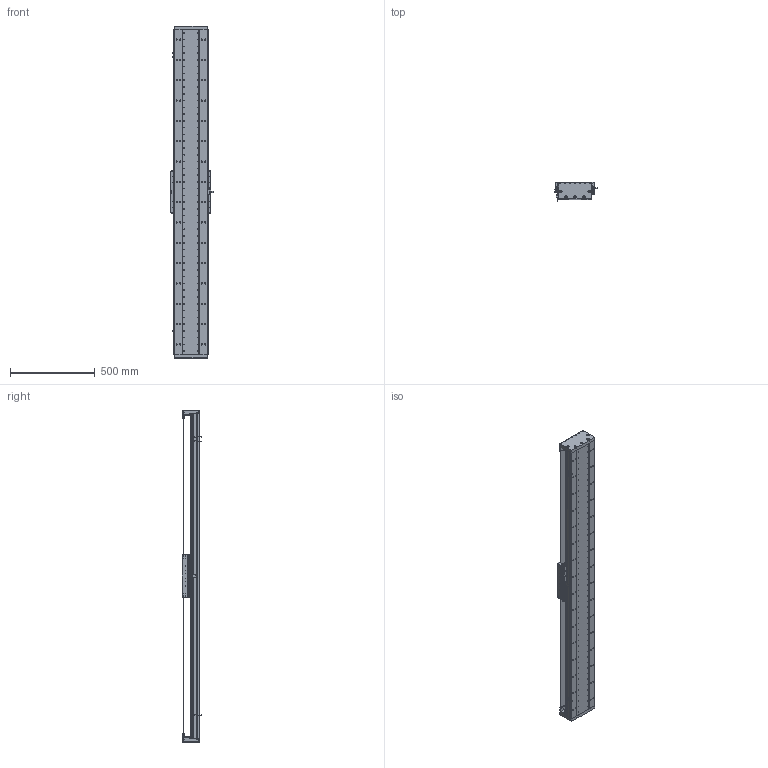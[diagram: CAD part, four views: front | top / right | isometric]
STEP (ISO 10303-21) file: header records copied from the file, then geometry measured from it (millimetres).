
FILE_DESCRIPTION (( 'STEP AP203' ), '1' );
FILE_NAME ('DA-C195-C3-T1620-C010-0.2 眻盄萇儂.STEP', '2025-08-15T01:37:17', ( '' ), ( '' ), 'SwSTEP 2.0', 'SolidWorks 2019', '' );
FILE_SCHEMA (( 'CONFIG_CONTROL_DESIGN' ));
Length unit declared in the file: millimetre
Products named in the file (15): DA165-GYP-00 光电感应片(默认); DA-C195-GD-DB-H-00 傷啣; DA95-HXJ-00 遣喳砎蝶; LMT黍杅芛; DA195詩湍菜輸; DA-C195-C3-T1620-C010-0.2 眻盄萇儂; DA195詩湍郪璃; MS200 棠掑喜S315-T240; DA195詩湍裔啣; IU-CU195-L-00 菁釱(L1920); PM-T45ㄗ侂狟ㄘ; DA195詩湍嶺輸; CU195-C3賑輸-俋楷; 葩璃 DA95-GT-T-00; IU-CU195-L 菁釱絳寢
Assembly tree (29 placements, depth 3):
  DA-C195-C3-T1620-C010-0.2 眻盄萇儂
    DA195詩湍郪璃
      DA195詩湍菜輸  x2
      DA195詩湍裔啣
      DA195詩湍嶺輸  x2
      DA95-HXJ-00 遣喳砎蝶  x8
      DA-C195-GD-DB-H-00 傷啣  x2
    IU-CU195-L 菁釱絳寢
      IU-CU195-L-00 菁釱(L1920)
      葩璃 DA95-GT-T-00  x4
    LMT黍杅芛
    MS200 棠掑喜S315-T240
    PM-T45ㄗ侂狟ㄘ  x3
    DA165-GYP-00 光电感应片(默认)
    CU195-C3賑輸-俋楷
Bounding box: 248 x 115.45 x 1960 mm (x, y, z)
Volume: 12109604.6 mm3; surface area: 3502975.8 mm2
Topology: 86 solids, 118 shells, 4044 faces, 11079 edges, 6945 vertices
Faces by surface type: cylinder 2090, plane 1352, cone 514, torus 52, sphere 36
Entity records: 124473 total; most frequent: CARTESIAN_POINT 31764, ORIENTED_EDGE 19074, DIRECTION 18862, EDGE_CURVE 9537, AXIS2_PLACEMENT_3D 7069, VERTEX_POINT 6147, LINE 4724, VECTOR 4724
